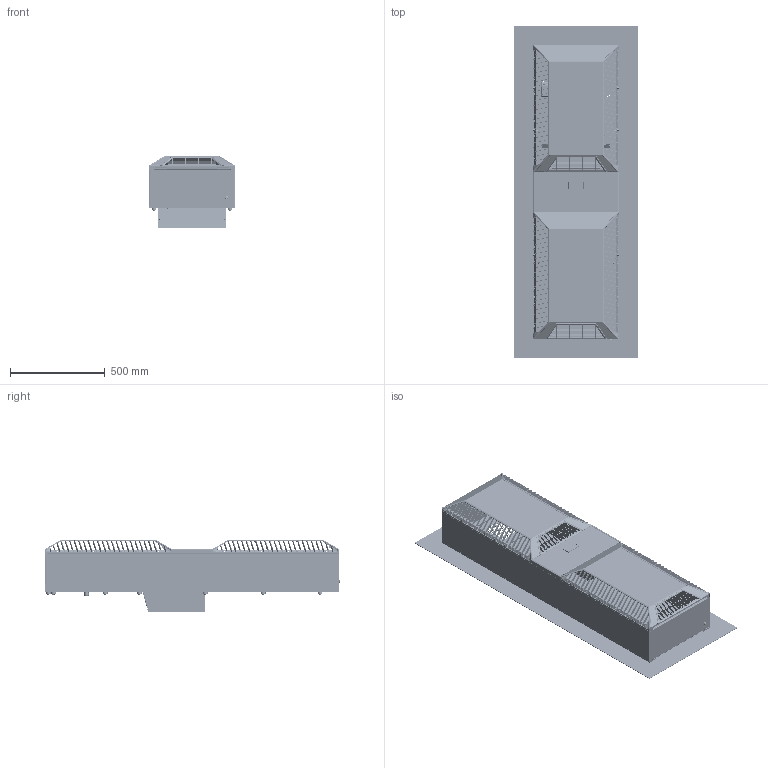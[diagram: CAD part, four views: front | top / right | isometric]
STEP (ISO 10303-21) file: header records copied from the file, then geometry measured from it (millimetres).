
FILE_DESCRIPTION((''),'2;1');
FILE_NAME('KG8540-60-62-VIBRATION-KIT_ASM__ASM','2020-11-17T16:02:13',('briang'),(''),'CREO PARAMETRIC BY PTC INC, 2018500','CREO PARAMETRIC BY PTC INC, 2018500','');
FILE_SCHEMA(('CONFIG_CONTROL_DESIGN'));
Products named in the file (54): KG-8540_CABINET_1; KG-8540_CABINET-MNF_ASM_1_ASM; KG-8540_BASE_1; BAYONET_DRAINFITTING_BLANK2_1; KG-8540_BASE_ASM_1_ASM; KG-8540_CONNECTOR_BRKT_1; KG-8540_CONNECTOR_BRKT_MNF_ASM__ASM; MC-PB7_62H04C-F_1; MC-7_62-4-PUSH-IN-ASSEMBLY_ASM__ASM; MC-PB5_08H05C-F_1; MC-5-5-PUSH-IN-ASSEMBLY_ASM_1_ASM; KG-8540_CONNECTOR_BRKT_ASM_1_ASM; POPNUT_M8_HEX_CLOSED_HEAD1-5_ST; KG-8540_SUPPLY_PLATE_1; KG-8540_SUPPLY_PLATE_MNF_ASM_1_ASM; CABLE_GLAND_M16_1; CABLE_GLAND_M20_METAL_1; KG8540_62-MOUNTING-BRACKET_1; KG8540_62-INTERNAL-AIR-DUCT_1; KG8540_62-INTERNAL-DUCT_ASM_1_ASM; KG-8540_CABINET_ASM_1_ASM; CAREL_IR33PLUS_SEIFERT_1; CAREL_IR33_PLUS_SEIFERT_ASM_1_ASM; KG-8540_CONTROLLER_ASM_1_ASM; KG-8540_INT_ACCESS_PANEL_1; KG-8540_INT_ACCESS_PANEL-MNF_AS_ASM; KG-8540_INT_ACCESS_PANEL_ASM_1_ASM; NG4-GRID-SIDE_1; NG4-GRID-SIDE-MIDDLE_1; NG4-GRID-SIDE-BOTTOM_1; NG4-GRID-SIDE-RIGHT_1; NG4-GRID-MID-RIGHT_1; NG4-GRID-SIDE-BTM-RIGHT_1; NG4-GRID-ASSEMBLY_ASM_1_ASM; KG8540_COVER_1; NG4-FRONT-GRID_1; KG8540_COVER_ASM_1_ASM; KG8540_COVER-BOTTOM_1; KG8540_COVER-BOTTOM_ASM_1_ASM; NG2_4-SIDE-STRIP_1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
Assembly tree (70 placements, depth 6):
  KG8540-60-62-VIBRATION-KIT_ASM__ASM
    KG-8540_COMPLETE_ASM_1_ASM
      KG-8540_CABINET_ASM_1_ASM
        KG-8540_CABINET-MNF_ASM_1_ASM
          KG-8540_CABINET_1
        KG-8540_BASE_ASM_1_ASM
          KG-8540_BASE_1
          BAYONET_DRAINFITTING_BLANK2_1
        KG-8540_CONNECTOR_BRKT_ASM_1_ASM
          KG-8540_CONNECTOR_BRKT_MNF_ASM__ASM
            KG-8540_CONNECTOR_BRKT_1
          MC-7_62-4-PUSH-IN-ASSEMBLY_ASM__ASM
            MC-PB7_62H04C-F_1
          MC-5-5-PUSH-IN-ASSEMBLY_ASM_1_ASM
            MC-PB5_08H05C-F_1
        POPNUT_M8_HEX_CLOSED_HEAD1-5_ST
        KG-8540_SUPPLY_PLATE_MNF_ASM_1_ASM
          KG-8540_SUPPLY_PLATE_1
        CABLE_GLAND_M16_1
        CABLE_GLAND_M20_METAL_1
        KG8540_62-MOUNTING-BRACKET_1  x2
        KG8540_62-INTERNAL-DUCT_ASM_1_ASM
          KG8540_62-INTERNAL-AIR-DUCT_1
      KG-8540_CONTROLLER_ASM_1_ASM
        CAREL_IR33_PLUS_SEIFERT_ASM_1_ASM
          CAREL_IR33PLUS_SEIFERT_1
      KG-8540_INT_ACCESS_PANEL_ASM_1_ASM
        KG-8540_INT_ACCESS_PANEL-MNF_AS_ASM
          KG-8540_INT_ACCESS_PANEL_1
      KG8540_COVER_ASM_1_ASM
        NG4-GRID-ASSEMBLY_ASM_1_ASM
          NG4-GRID-SIDE_1
          NG4-GRID-SIDE-MIDDLE_1
          NG4-GRID-SIDE-BOTTOM_1
          NG4-GRID-SIDE-RIGHT_1
          NG4-GRID-MID-RIGHT_1
          NG4-GRID-SIDE-BTM-RIGHT_1
        KG8540_COVER_1
        NG4-FRONT-GRID_1
      KG8540_COVER-BOTTOM_ASM_1_ASM
        NG4-GRID-ASSEMBLY_ASM_1_ASM
          NG4-GRID-SIDE_1
          NG4-GRID-SIDE-MIDDLE_1
          NG4-GRID-SIDE-BOTTOM_1
          NG4-GRID-SIDE-RIGHT_1
          NG4-GRID-MID-RIGHT_1
          NG4-GRID-SIDE-BTM-RIGHT_1
        KG8540_COVER-BOTTOM_1
        NG4-FRONT-GRID_1
      KG-8540_MID-COVER_ASM_1_ASM
        NG2_4-SIDE-STRIP_1  x2
        KG-8540_MID-COVER_1
    KG8540-VIBRATION-KIT-TEMPLATE_1
    RUBBER-ANTI-VIBRATION-KIT_ASM_1_ASM  x13
      RUBBER-FLANGED-BUSHING_1
      RUBBER-ROUND-BUSHING_1
      SLEEVE-A2-8X6X15MM_1
      WASHER-DIN522_M6X25MM-A2_1
      LOCK-WASHER-DIN127-M6-AS_1
      SCREW_DIN7985_M6X30-4_8_1
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Bounding box: 655 x 1750 x 384.75 mm (x, y, z)
Volume: 8894741.5 mm3; surface area: 8331866.2 mm2
Topology: 116 solids, 132 shells, 13542 faces, 39102 edges, 25356 vertices
Faces by surface type: plane 9722, cylinder 2949, cone 401, bspline 270, sphere 100, torus 94, extrusion 6
Entity records: 284105 total; most frequent: CARTESIAN_POINT 68434, ORIENTED_EDGE 46746, DIRECTION 41543, EDGE_CURVE 23375, VECTOR 17951, LINE 17945, VERTEX_POINT 15236, AXIS2_PLACEMENT_3D 11796
